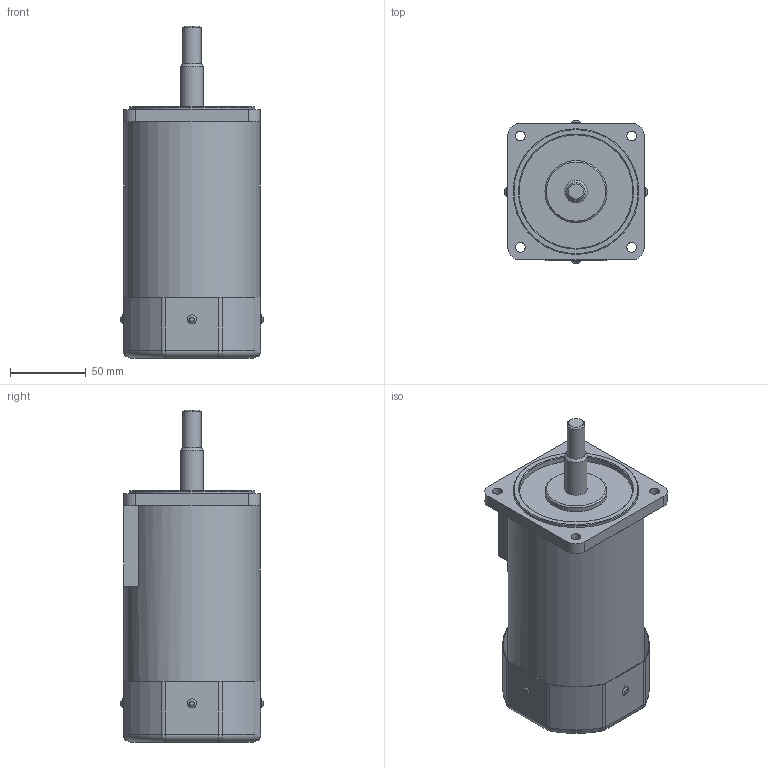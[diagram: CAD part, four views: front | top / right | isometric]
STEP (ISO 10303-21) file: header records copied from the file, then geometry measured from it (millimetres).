
FILE_DESCRIPTION (( 'STEP AP203' ), '1' );
FILE_NAME ('9IDG¤±-180FHC.STEP', '2020-06-19T08:04:13', ( '' ), ( '' ), 'SwSTEP 2.0', 'SolidWorks 2012', '' );
FILE_SCHEMA (( 'CONFIG_CONTROL_DESIGN' ));
Length unit declared in the file: millimetre
Products named in the file (3): 9IDG､ｱ-180FHC; FC-F_ル遽; 9IDG､ｱ-180HC_ﾇ･ﾁﾘ
Assembly tree (2 placements, depth 2):
  9IDG､ｱ-180FHC
    9IDG､ｱ-180HC_ﾇ･ﾁﾘ
    FC-F_ル遽
Bounding box: 94 x 94 x 219.3 mm (x, y, z)
Volume: 949040.9 mm3; surface area: 98453.5 mm2
Topology: 2 solids, 2 shells, 244 faces, 606 edges, 383 vertices
Faces by surface type: cylinder 135, plane 74, sphere 16, torus 9, cone 6, bspline 4
Full cylindrical faces by diameter (mm): 3 x12, 6.1 x1, 6.5 x4, 10.2 x1, 11.93 x1, 15 x1, 38 x1, 41 x1, 67 x1, 75 x1, 83 x1, 86.5 x1, 90 x1
Entity records: 7543 total; most frequent: CARTESIAN_POINT 1409, DIRECTION 1340, ORIENTED_EDGE 1088, AXIS2_PLACEMENT_3D 555, EDGE_CURVE 544, VERTEX_POINT 368, EDGE_LOOP 342, CIRCLE 310
